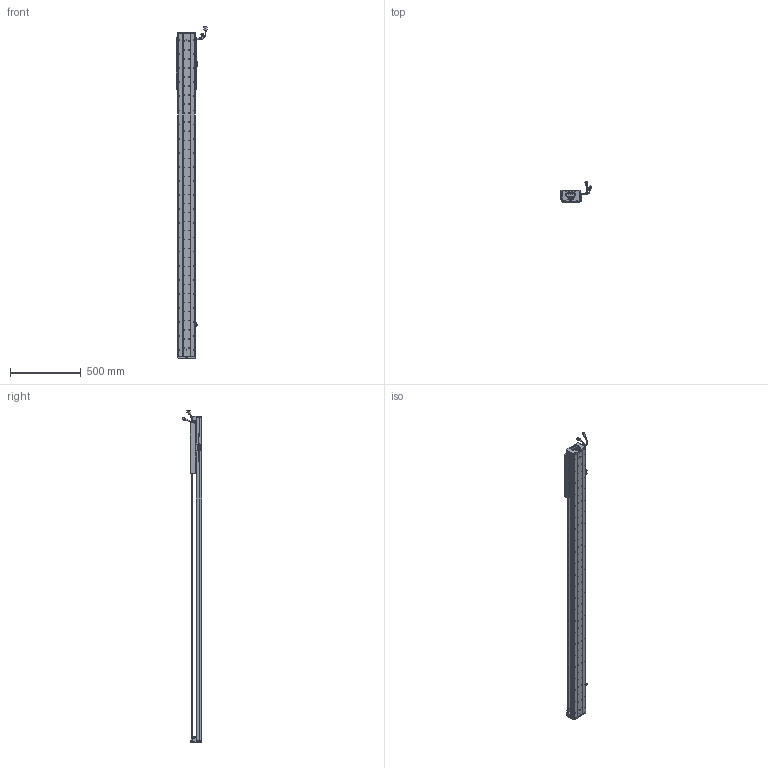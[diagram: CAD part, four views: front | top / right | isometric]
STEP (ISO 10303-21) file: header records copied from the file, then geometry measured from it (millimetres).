
FILE_DESCRIPTION (( 'STEP AP203' ), '1' );
FILE_NAME ('Z5-RY120D-1-L500-B-K.SLDASM_1850.step', '2021-05-17T06:24:04', ( '盈信电脑' ), ( '东莞市道滘镇水果街19号' ), 'SwSTEP 2.0', 'SolidWorks 2016', '' );
FILE_SCHEMA (( 'CONFIG_CONTROL_DESIGN' ));
Length unit declared in the file: millimetre
Products named in the file (37): SHIELDPLATE; LABEL; SCREW-M1.6; SEAL-Part-1; PSLH080_PSLF2; 覜茼ん672; PBU_SHEET; HARNESS; Z5-RY120-500-倰第菁釱_1850; 140蚥薯蝶輸; 140雄赽晤鎢ん堤盄; SCREW-M1.6-2; 榋妏寠巭燃_暯_M2_2; HARNESS-Part-2; 672嫖萇羲壽假蚾釱; SCALE; COVER; SCALE-Part-2; HOLDER0; SCREW-M1.7-1; Z-120詩湍傷裔啣; Z-RY120D詩湍奻揤裔; SCREW-M1.6-3; SCREW-M1.6-1; 120-Z-臏賑輸盄裔(21遴); SCREW-M1.7; COVER-Part-1; RY100FB-遵嫖萇覜茼え; SEAL; Z5-RY120D-1-L500-B-K.SLDASM_1850; Z5-RY120-L500詩湍100mm遵_1850; Z-RY120D詩湍狟揤裔; Z5-RY120铝滑块（21款）; 080黍杅芛假蚾釱21遴; HARNESS-Part-1; SCALE-Part-1; LABEL-Part-1
Assembly tree (43 placements, depth 4):
  Z5-RY120D-1-L500-B-K.SLDASM_1850
    Z5-RY120-500-倰第菁釱_1850
    覜茼ん672  x3
    672嫖萇羲壽假蚾釱  x2
    Z5-RY120铝滑块（21款）
    PSLH080_PSLF2
      SCALE
        SCALE-Part-1
        SCALE-Part-2
      HARNESS
        HARNESS-Part-1
        HARNESS-Part-2
      LABEL
        LABEL-Part-1
      COVER
        COVER-Part-1
      SEAL
        SEAL-Part-1
      榋妏寠巭燃_暯_M2_2
      SHIELDPLATE
      SCREW-M1.7
      SCREW-M1.7-1
      PBU_SHEET
      SCREW-M1.6
      SCREW-M1.6-1
      SCREW-M1.6-2
      SCREW-M1.6-3
      HOLDER0
    080黍杅芛假蚾釱21遴
    120-Z-臏賑輸盄裔(21遴)
    140雄赽晤鎢ん堤盄
    140蚥薯蝶輸  x2
    RY100FB-遵嫖萇覜茼え
    Z-120詩湍傷裔啣  x2
    Z-RY120D詩湍奻揤裔  x2
    Z-RY120D詩湍狟揤裔  x2
    Z5-RY120-L500詩湍100mm遵_1850
Bounding box: 222.88 x 140.94 x 2353.99 mm (x, y, z)
Volume: 5974217.4 mm3; surface area: 2015469.5 mm2
Topology: 38 solids, 38 shells, 3573 faces, 10071 edges, 6360 vertices
Faces by surface type: cylinder 1855, plane 1234, cone 362, torus 69, bspline 53
Entity records: 117828 total; most frequent: CARTESIAN_POINT 35173, ORIENTED_EDGE 16942, DIRECTION 15777, EDGE_CURVE 8471, AXIS2_PLACEMENT_3D 5846, VERTEX_POINT 5480, LINE 4085, VECTOR 4085
